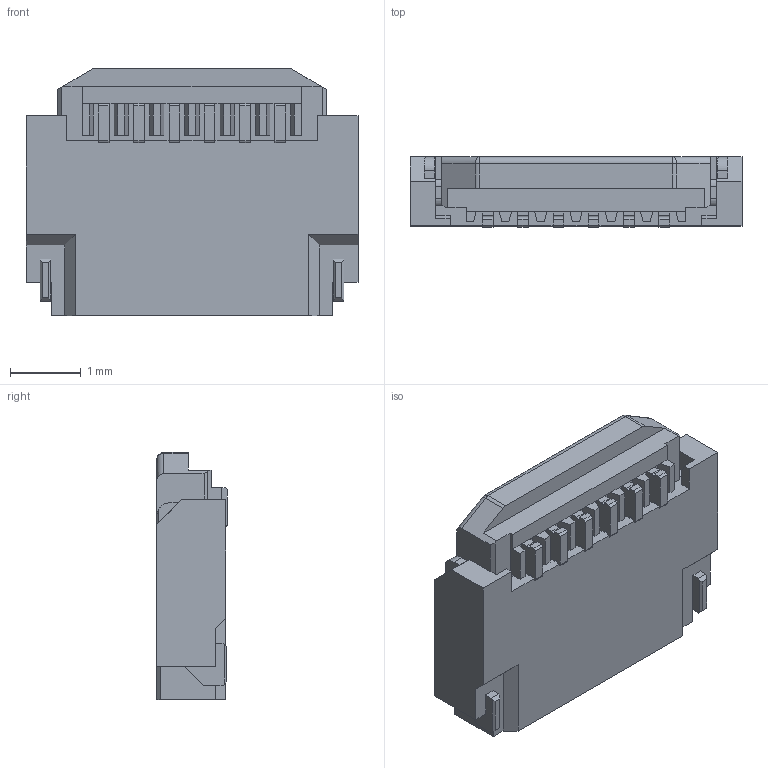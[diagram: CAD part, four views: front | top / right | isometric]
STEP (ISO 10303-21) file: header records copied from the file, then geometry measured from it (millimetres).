
FILE_DESCRIPTION (( 'STEP AP203' ), '1' );
FILE_NAME ('20542-006E-01C ACT CLOSE STEP R1 ALL.STEP', '2013-02-12T10:07:44', ( '' ), ( '' ), 'SwSTEP 2.0', 'SolidWorks 2011', '' );
FILE_SCHEMA (( 'CONFIG_CONTROL_DESIGN' ));
Length unit declared in the file: millimetre
Products named in the file (1): 20542-006E-01C ACT CLOSE STEP R1 ALL
Bounding box: 4.7 x 1 x 3.5 mm (x, y, z)
Volume: 13.4 mm3; surface area: 51 mm2
Topology: 1 solids, 1 shells, 205 faces, 627 edges, 410 vertices
Faces by surface type: plane 168, cylinder 35, sphere 2
Entity records: 6988 total; most frequent: CARTESIAN_POINT 1259, ORIENTED_EDGE 1250, DIRECTION 1099, EDGE_CURVE 625, LINE 551, VECTOR 551, VERTEX_POINT 410, AXIS2_PLACEMENT_3D 274
